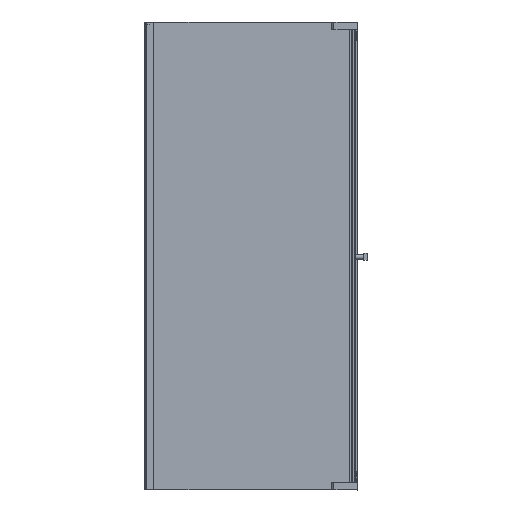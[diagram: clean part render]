
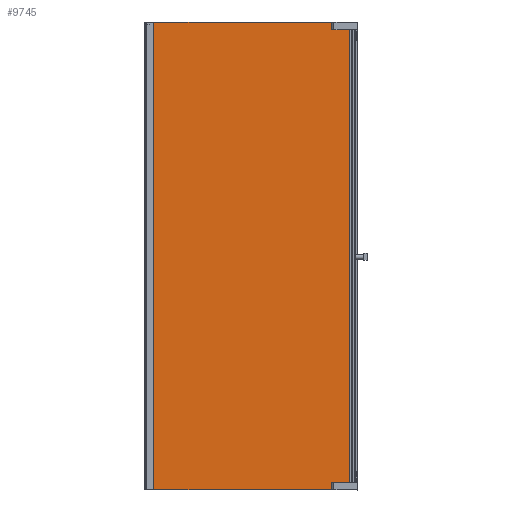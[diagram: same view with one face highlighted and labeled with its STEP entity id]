
A CAD part, left-side view. The second image highlights one B-rep face of the part: STEP entity #9745.
In plain terms, the highlighted planar face has unit normal (-1, 0, 0).
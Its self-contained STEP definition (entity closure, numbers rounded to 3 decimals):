
#1027=FACE_OUTER_BOUND('',#1615,.T.);
#1615=EDGE_LOOP('',(#7766,#7767,#7768,#7769));
#2446=LINE('',#15514,#3467);
#2454=LINE('',#15529,#3475);
#2455=LINE('',#15531,#3476);
#2456=LINE('',#15532,#3477);
#3467=VECTOR('',#12570,10.);
#3475=VECTOR('',#12582,10.);
#3476=VECTOR('',#12585,10.);
#3477=VECTOR('',#12586,10.);
#4400=VERTEX_POINT('',#15510);
#4402=VERTEX_POINT('',#15513);
#4406=VERTEX_POINT('',#15525);
#4407=VERTEX_POINT('',#15527);
#5589=EDGE_CURVE('',#4400,#4402,#2446,.T.);
#5597=EDGE_CURVE('',#4406,#4407,#2454,.T.);
#5598=EDGE_CURVE('',#4400,#4406,#2455,.T.);
#5599=EDGE_CURVE('',#4402,#4407,#2456,.T.);
#7766=ORIENTED_EDGE('',*,*,#5598,.T.);
#7767=ORIENTED_EDGE('',*,*,#5597,.T.);
#7768=ORIENTED_EDGE('',*,*,#5599,.F.);
#7769=ORIENTED_EDGE('',*,*,#5589,.F.);
#9293=PLANE('',#10527);
#9745=ADVANCED_FACE('',(#1027),#9293,.T.);
#10527=AXIS2_PLACEMENT_3D('',#15530,#12583,#12584);
#12570=DIRECTION('',(0.,0.,1.));
#12582=DIRECTION('',(0.,0.,1.));
#12583=DIRECTION('center_axis',(-1.,0.,0.));
#12584=DIRECTION('ref_axis',(0.,0.,1.));
#12585=DIRECTION('',(0.,-1.,0.));
#12586=DIRECTION('',(0.,-1.,0.));
#15510=CARTESIAN_POINT('',(5859.672,274.826,0.));
#15513=CARTESIAN_POINT('',(5859.672,274.826,1950.));
#15514=CARTESIAN_POINT('',(5859.672,274.826,0.));
#15525=CARTESIAN_POINT('',(5859.672,-584.29,0.));
#15527=CARTESIAN_POINT('',(5859.672,-584.29,1950.));
#15529=CARTESIAN_POINT('',(5859.672,-584.29,0.));
#15530=CARTESIAN_POINT('Origin',(5859.672,-154.732,-0.001));
#15531=CARTESIAN_POINT('',(5859.672,274.826,0.));
#15532=CARTESIAN_POINT('',(5859.672,274.826,1950.));
